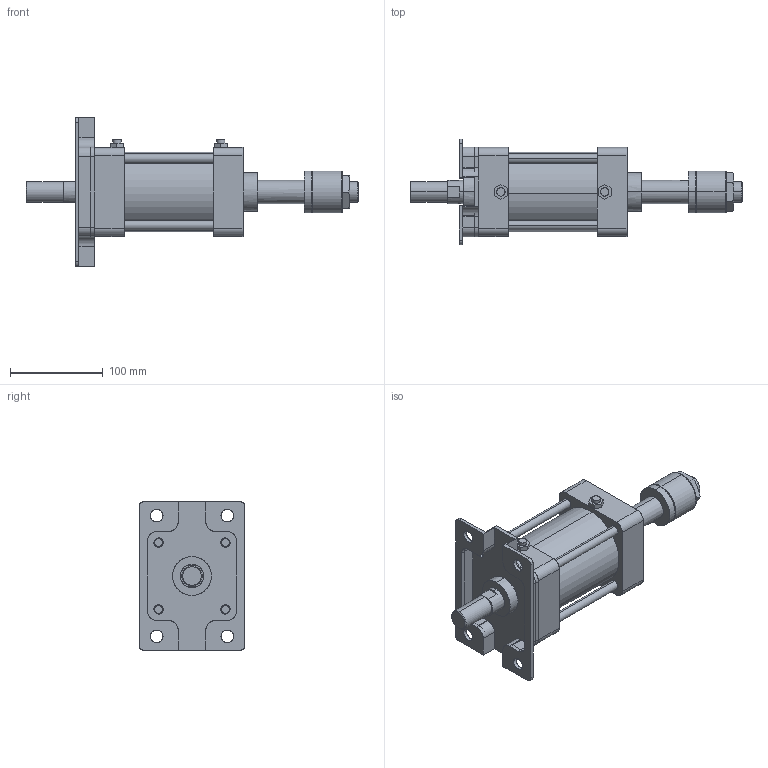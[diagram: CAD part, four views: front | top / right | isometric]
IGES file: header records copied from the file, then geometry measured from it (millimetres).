
Start section: SolidWorks IGES file using analytic representation for surfaces
Global section: file name: C:\Users\Toshiba\Desktop\KGA7-80#-50-A.IGS; native system: SolidWorks 2014; preprocessor: SolidWorks 2014; author: Toshiba; date: 160414.155302; units: millimetre
Bounding box: 358 x 114 x 160 mm (x, y, z)
Surface area: 244928.1 mm2 (no closed solid volume)
Topology: 0 solids, 0 shells, 429 faces, 7174 edges, 7170 vertices
Faces by surface type: bspline 229, revolution 200
